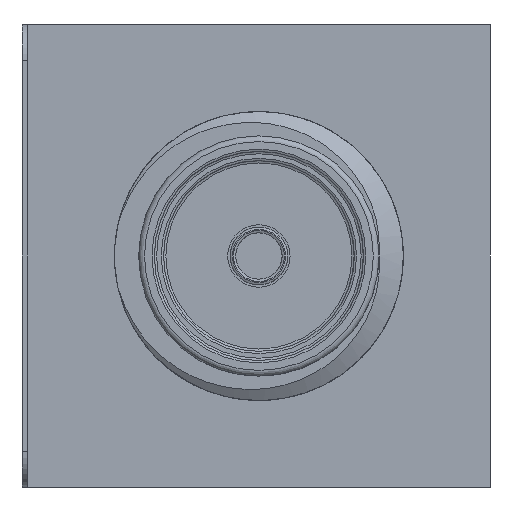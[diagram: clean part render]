
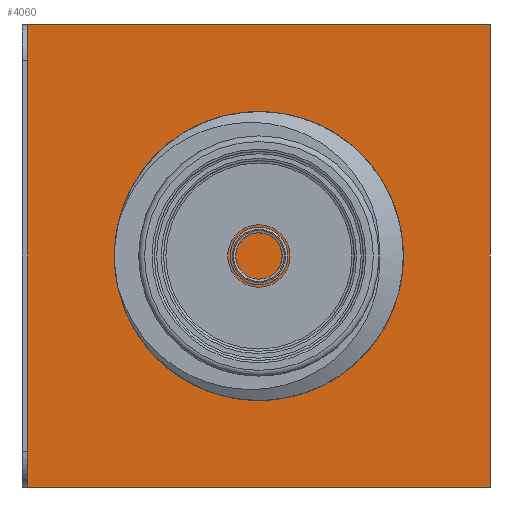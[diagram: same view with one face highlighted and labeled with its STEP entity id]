
A CAD part, left-side view. The second image highlights one B-rep face of the part: STEP entity #4060.
In plain terms, the highlighted planar face has unit normal (-1, 0, 0).
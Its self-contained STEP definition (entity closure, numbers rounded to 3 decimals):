
#426 = CARTESIAN_POINT ( 'NONE',  ( -24.13, -5.08, 0. ) ) ;
#675 = ORIENTED_EDGE ( 'NONE', *, *, #15590, .F. ) ;
#1550 = CARTESIAN_POINT ( 'NONE',  ( -24.13, -5.08, 10.16 ) ) ;
#1637 = DIRECTION ( 'NONE',  ( 1., 0., 0. ) ) ;
#1711 = CARTESIAN_POINT ( 'NONE',  ( -24.13, 5.08, 10.16 ) ) ;
#2339 = VERTEX_POINT ( 'NONE', #16554 ) ;
#2508 = VERTEX_POINT ( 'NONE', #426 ) ;
#2878 = DIRECTION ( 'NONE',  ( 0., -1., 0. ) ) ;
#3582 = DIRECTION ( 'NONE',  ( 0., -1., 0. ) ) ;
#4060 = ADVANCED_FACE ( 'NONE', ( #14770 ), #12067, .F. ) ;
#4927 = DIRECTION ( 'NONE',  ( 0., 0., -1. ) ) ;
#5215 = VECTOR ( 'NONE', #4927, 1000. ) ;
#5315 = CARTESIAN_POINT ( 'NONE',  ( -24.13, 5.08, 0. ) ) ;
#5673 = DIRECTION ( 'NONE',  ( 0., 0., -1. ) ) ;
#6120 = LINE ( 'NONE', #8716, #10575 ) ;
#6222 = EDGE_LOOP ( 'NONE', ( #8811, #12838, #675, #8400 ) ) ;
#6793 = EDGE_CURVE ( 'NONE', #16342, #2508, #10063, .T. ) ;
#6795 = DIRECTION ( 'NONE',  ( 0., 0., -1. ) ) ;
#7597 = VERTEX_POINT ( 'NONE', #5315 ) ;
#7901 = VECTOR ( 'NONE', #5673, 1000. ) ;
#8400 = ORIENTED_EDGE ( 'NONE', *, *, #14517, .T. ) ;
#8716 = CARTESIAN_POINT ( 'NONE',  ( -24.13, -5.08, 10.16 ) ) ;
#8788 = CARTESIAN_POINT ( 'NONE',  ( -24.13, -5.08, 10.16 ) ) ;
#8811 = ORIENTED_EDGE ( 'NONE', *, *, #16147, .T. ) ;
#10063 = LINE ( 'NONE', #8788, #5215 ) ;
#10575 = VECTOR ( 'NONE', #3582, 1000. ) ;
#11134 = VECTOR ( 'NONE', #2878, 1000. ) ;
#12067 = PLANE ( 'NONE',  #15895 ) ;
#12838 = ORIENTED_EDGE ( 'NONE', *, *, #6793, .F. ) ;
#14409 = CARTESIAN_POINT ( 'NONE',  ( -24.13, -5.08, 10.16 ) ) ;
#14517 = EDGE_CURVE ( 'NONE', #2339, #7597, #14542, .T. ) ;
#14524 = CARTESIAN_POINT ( 'NONE',  ( -24.13, -5.08, 0. ) ) ;
#14542 = LINE ( 'NONE', #1711, #7901 ) ;
#14770 = FACE_OUTER_BOUND ( 'NONE', #6222, .T. ) ;
#15590 = EDGE_CURVE ( 'NONE', #2339, #16342, #6120, .T. ) ;
#15694 = LINE ( 'NONE', #14524, #11134 ) ;
#15895 = AXIS2_PLACEMENT_3D ( 'NONE', #1550, #1637, #6795 ) ;
#16147 = EDGE_CURVE ( 'NONE', #7597, #2508, #15694, .T. ) ;
#16342 = VERTEX_POINT ( 'NONE', #14409 ) ;
#16554 = CARTESIAN_POINT ( 'NONE',  ( -24.13, 5.08, 10.16 ) ) ;
